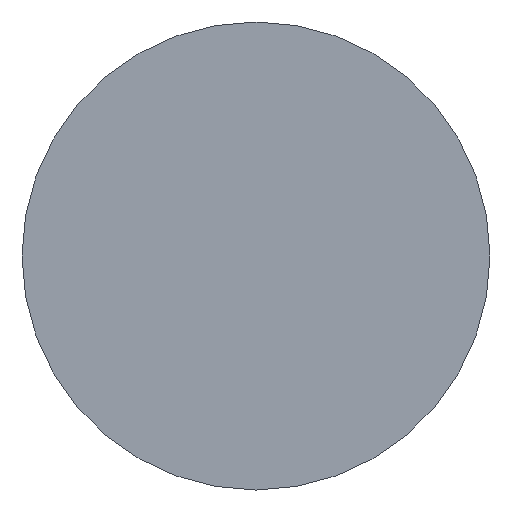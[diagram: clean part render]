
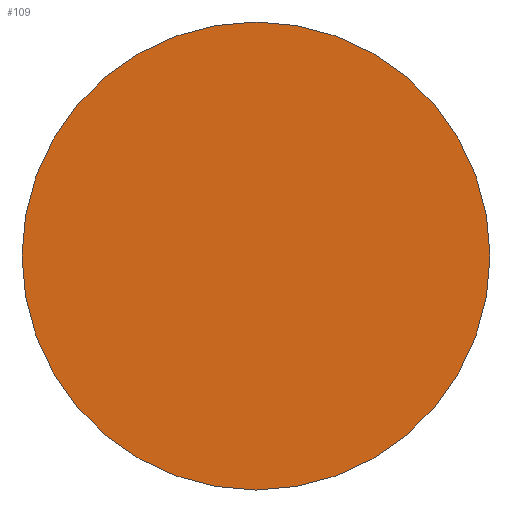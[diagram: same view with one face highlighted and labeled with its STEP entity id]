
A CAD part, left-side view. The second image highlights one B-rep face of the part: STEP entity #109.
In plain terms, the highlighted planar face has unit normal (-1, 0, 0).
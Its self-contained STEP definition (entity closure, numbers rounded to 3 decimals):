
#31 = CYLINDRICAL_SURFACE('',#32,1.2);
#32 = AXIS2_PLACEMENT_3D('',#33,#34,#35);
#33 = CARTESIAN_POINT('',(28.9,25.5,-11.9));
#34 = DIRECTION('',(1.,0.,0.));
#35 = DIRECTION('',(-0.,0.,1.));
#56 = VERTEX_POINT('',#57);
#57 = CARTESIAN_POINT('',(28.9,25.5,-10.7));
#78 = EDGE_CURVE('',#56,#56,#79,.T.);
#79 = SURFACE_CURVE('',#80,(#85,#92),.PCURVE_S1.);
#80 = CIRCLE('',#81,1.2);
#81 = AXIS2_PLACEMENT_3D('',#82,#83,#84);
#82 = CARTESIAN_POINT('',(28.9,25.5,-11.9));
#83 = DIRECTION('',(1.,0.,0.));
#84 = DIRECTION('',(-0.,0.,1.));
#85 = PCURVE('',#31,#86);
#86 = DEFINITIONAL_REPRESENTATION('',(#87),#91);
#87 = LINE('',#88,#89);
#88 = CARTESIAN_POINT('',(0.,0.));
#89 = VECTOR('',#90,1.);
#90 = DIRECTION('',(1.,0.));
#91 = ( GEOMETRIC_REPRESENTATION_CONTEXT(2) 
PARAMETRIC_REPRESENTATION_CONTEXT() REPRESENTATION_CONTEXT('2D SPACE',''
  ) );
#92 = PCURVE('',#93,#98);
#93 = PLANE('',#94);
#94 = AXIS2_PLACEMENT_3D('',#95,#96,#97);
#95 = CARTESIAN_POINT('',(28.9,25.5,-11.9));
#96 = DIRECTION('',(1.,0.,0.));
#97 = DIRECTION('',(-0.,0.,1.));
#98 = DEFINITIONAL_REPRESENTATION('',(#99),#103);
#99 = CIRCLE('',#100,1.2);
#100 = AXIS2_PLACEMENT_2D('',#101,#102);
#101 = CARTESIAN_POINT('',(0.,0.));
#102 = DIRECTION('',(1.,0.));
#103 = ( GEOMETRIC_REPRESENTATION_CONTEXT(2) 
PARAMETRIC_REPRESENTATION_CONTEXT() REPRESENTATION_CONTEXT('2D SPACE',''
  ) );
#109 = ADVANCED_FACE('',(#110),#93,.F.);
#110 = FACE_BOUND('',#111,.T.);
#111 = EDGE_LOOP('',(#112));
#112 = ORIENTED_EDGE('',*,*,#78,.F.);
